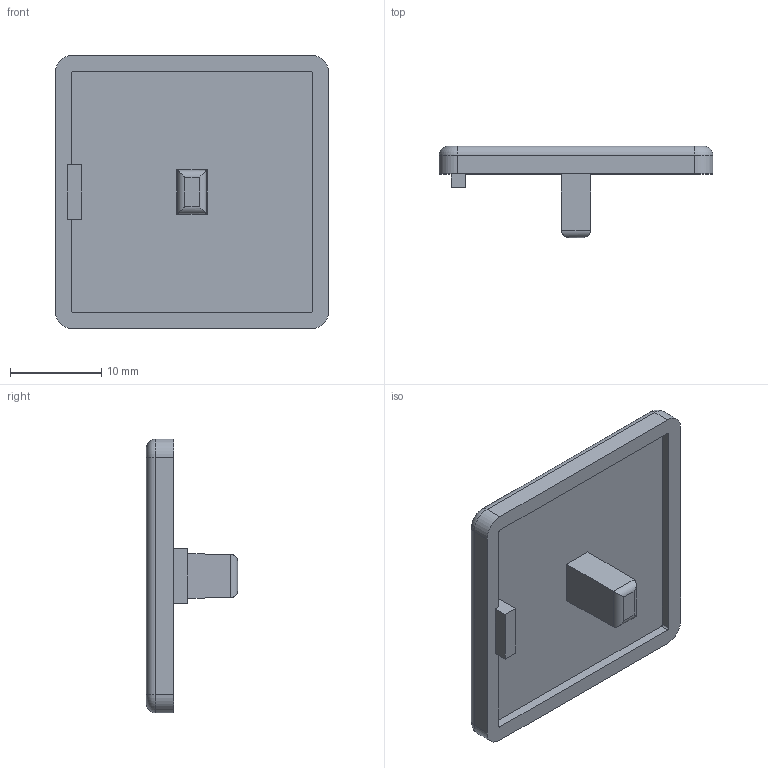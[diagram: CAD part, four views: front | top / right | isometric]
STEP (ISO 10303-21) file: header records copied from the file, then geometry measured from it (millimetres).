
FILE_DESCRIPTION (( 'STEP AP214' ), '1' );
FILE_NAME ('J3C3G.step', '2017-05-24T07:38:26', ( 'admin' ), ( '' ), 'SwSTEP 2.0', 'SolidWorks 2014', '' );
FILE_SCHEMA (( 'AUTOMOTIVE_DESIGN' ));
Length unit declared in the file: millimetre
Products named in the file (1): J3C3G
Bounding box: 30 x 10 x 30 mm (x, y, z)
Volume: 2111.9 mm3; surface area: 2344.8 mm2
Topology: 1 solids, 1 shells, 42 faces, 102 edges, 64 vertices
Faces by surface type: plane 22, cylinder 16, torus 4
Entity records: 1252 total; most frequent: CARTESIAN_POINT 221, DIRECTION 212, ORIENTED_EDGE 204, EDGE_CURVE 102, AXIS2_PLACEMENT_3D 71, LINE 70, VECTOR 70, VERTEX_POINT 64
